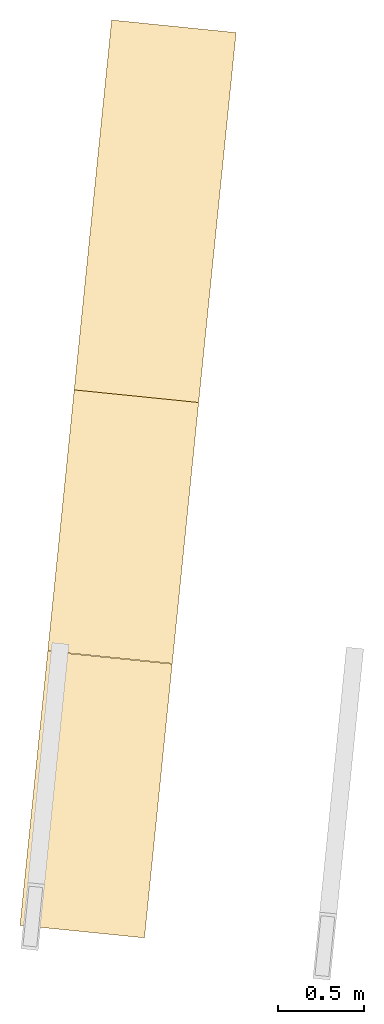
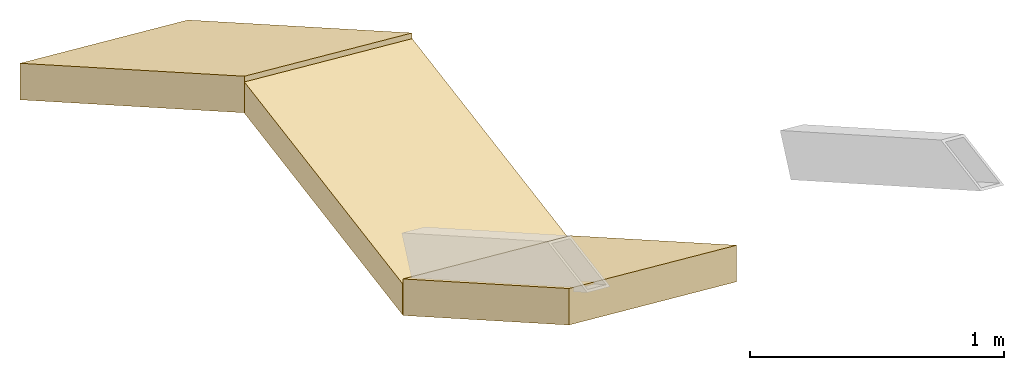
# One storey, part 2 of 2: 3 coverings.
"""IFC2X3 building model written with IfcOpenShell, lengths in millimetres."""

from ifc_helpers import new_model, entity, si_unit, converted_unit, derived_unit, direction, frame, origin, origin_with_axes, origin_2d_with_axis, place, context, subcontext, project, spatial, rectangle, extrude, faceted_brep, material, layer, layer_set, layer_usage, type_object, element, save


model = new_model("IFC2X3")

# Units and contexts
plan_context = context("Plan", 3, precision=1e-05, world=origin_with_axes())
model_context = context("Model", 3, precision=0.01, world=origin(), true_north=direction((6.12323399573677e-17, 1.0)))
body_context = subcontext(model_context, "Body", "Model", "MODEL_VIEW")
ifc_project = project(units=[converted_unit("PLANEANGLEUNIT", "DEGREE", entity("IfcPositiveLengthMeasure", 0.0174532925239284), si_unit("PLANEANGLEUNIT", "RADIAN"), dimensions=[0, 0, 0, 0, 0, 0, 0]), si_unit("AREAUNIT", "SQUARE_METRE"), si_unit("LENGTHUNIT", "METRE", prefix="MILLI"), si_unit("MASSUNIT", "GRAM", prefix="KILO"), si_unit("POWERUNIT", "WATT"), si_unit("PRESSUREUNIT", "PASCAL", prefix="KILO"), si_unit("FORCEUNIT", "NEWTON", prefix="KILO"), si_unit("ELECTRICVOLTAGEUNIT", "VOLT"), si_unit("ELECTRICCURRENTUNIT", "AMPERE"), si_unit("THERMODYNAMICTEMPERATUREUNIT", "DEGREE_CELSIUS"), si_unit("TIMEUNIT", "SECOND"), si_unit("VOLUMEUNIT", "CUBIC_METRE"), derived_unit("LINEARVELOCITYUNIT", [(si_unit("LENGTHUNIT", "METRE"), 1), (si_unit("TIMEUNIT", "SECOND"), -1)]), derived_unit("VOLUMETRICFLOWRATEUNIT", [(si_unit("VOLUMEUNIT", "CUBIC_METRE"), 1), (si_unit("TIMEUNIT", "SECOND"), -1)]), derived_unit("THERMALTRANSMITTANCEUNIT", [(si_unit("POWERUNIT", "WATT"), 1), (si_unit("THERMODYNAMICTEMPERATUREUNIT", "KELVIN"), -1), (si_unit("AREAUNIT", "SQUARE_METRE"), -1)]), derived_unit("SOUNDPRESSUREUNIT", [(si_unit("PRESSUREUNIT", "PASCAL"), 1)])], contexts=[model_context, plan_context])

# Site, building, storey
site_placement = place(None, frame((-0.00071070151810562, 0.00438415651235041, 0.0), z_axis=(0.0, 0.0, 1.0), x_axis=(-0.160236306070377, 0.987078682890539, 0.0)))
site = spatial("IfcSite", under=ifc_project, at=site_placement, Name="Default", CompositionType="ELEMENT")
building_placement = place(site_placement, origin_with_axes())
building = spatial("IfcBuilding", under=site, at=building_placement, Name="TOO", CompositionType="ELEMENT")
storey_placement = place(building_placement, frame((0.0, 0.0, 63999.9999999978), z_axis=(0.0, 0.0, 1.0), x_axis=(1.0, 0.0, 0.0)))
storey = spatial("IfcBuildingStorey", under=building, at=storey_placement, Name="Nivå G", CompositionType="ELEMENT", Elevation=63999.9999999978)

# Coverings
ifc_material = material(Name="A257 - Brannplate")
ifc_layer = layer(ifc_material, 150.0)
ifc_layer_set = layer_set([ifc_layer], Name="Compound Ceiling:A256 G01 GIPS BRANN HIMLING")
ifc_layer_usage_1 = layer_usage(ifc_layer_set, "AXIS3", "NEGATIVE", 150.0)
covering_type = type_object("IfcCoveringType", Name="Compound Ceiling:A256 G01 GIPS BRANN HIMLING", PredefinedType="CEILING")
covering_1_placement = place(storey_placement, frame((767083.050189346, -506970.117384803, -4019.29966231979), z_axis=(0.0, 0.0, 1.0), x_axis=(1.0, 0.0, 0.0)))
element("IfcCovering", 1, at=covering_1_placement, inside=storey, type_object=covering_type, material=ifc_layer_usage_1, Name="Compound Ceiling:A256 G01 GIPS BRANN HIMLING", ObjectType="Compound Ceiling:A256 G01 GIPS BRANN HIMLING", PredefinedType="CEILING", context=body_context, shape_type="Brep", body=[
    faceted_brep([(187.643807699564, 1258.05126625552, 1489.54968272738), (0.0, 557.755042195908, 1489.54968272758), (2081.57015565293, 0.0, 175.680340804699), (2269.21396335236, 700.296224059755, 175.680340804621), (187.643807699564, 1258.05126625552, 1313.86934192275), (2269.21396335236, 700.296224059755, 0.0), (2081.57015565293, 0.0, 0.0), (0.0, 557.755042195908, 1313.86934192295)], [[[0, 1, 2, 3]], [[4, 5, 6, 7]], [[1, 0, 4, 7]], [[3, 2, 6, 5]], [[0, 3, 5, 4]], [[2, 1, 7, 6]]]),
])
ifc_layer_usage_2 = layer_usage(ifc_layer_set, "AXIS3", "NEGATIVE", 150.0)
covering_2_placement = place(storey_placement, origin_with_axes())
element("IfcCovering", 2, at=covering_2_placement, inside=storey, type_object=covering_type, material=ifc_layer_usage_2, Name="Compound Ceiling:A256 G01 GIPS BRANN HIMLING", ObjectType="Compound Ceiling:A256 G01 GIPS BRANN HIMLING", PredefinedType="CEILING", context=body_context, shape_type="SweptSolid", body=[
    extrude(rectangle(XDim=725.000000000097, YDim=1520.00000000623, at=origin_2d_with_axis()), frame((766443.704960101, -505865.762689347, -2707.28765052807), z_axis=(0.0, 0.0, 1.0), x_axis=(-0.258819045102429, -0.965925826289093, 0.0)), (0.0, 0.0, 1.0), 150.000000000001),
])
ifc_layer_usage_3 = layer_usage(ifc_layer_set, "AXIS3", "NEGATIVE", 150.0)
covering_3_placement = place(storey_placement, frame((764072.604526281, -506018.532235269, -2708.73913043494), z_axis=(0.0, 0.0, 1.0), x_axis=(1.0, 0.0, 0.0)))
element("IfcCovering", 3, at=covering_3_placement, inside=storey, type_object=covering_type, material=ifc_layer_usage_3, Name="Compound Ceiling:A256 G01 GIPS BRANN HIMLING", ObjectType="Compound Ceiling:A256 G01 GIPS BRANN HIMLING", PredefinedType="CEILING", context=body_context, shape_type="Brep", body=[
    faceted_brep([(187.643807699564, 1113.11260099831, 1148.12655907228), (0.0, 412.816376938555, 1148.12655907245), (1540.65169293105, 0.0, 175.680340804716), (1728.29550063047, 700.296224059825, 175.680340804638), (187.643807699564, 1113.11260099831, 972.446218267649), (1728.29550063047, 700.296224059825, 0.0), (1540.65169293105, 0.0, 0.0), (0.0, 412.816376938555, 972.446218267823)], [[[0, 1, 2, 3]], [[4, 5, 6, 7]], [[1, 0, 4, 7]], [[2, 1, 7, 6]], [[3, 2, 6, 5]], [[0, 3, 5, 4]]]),
])

save(model, "model.ifc")
